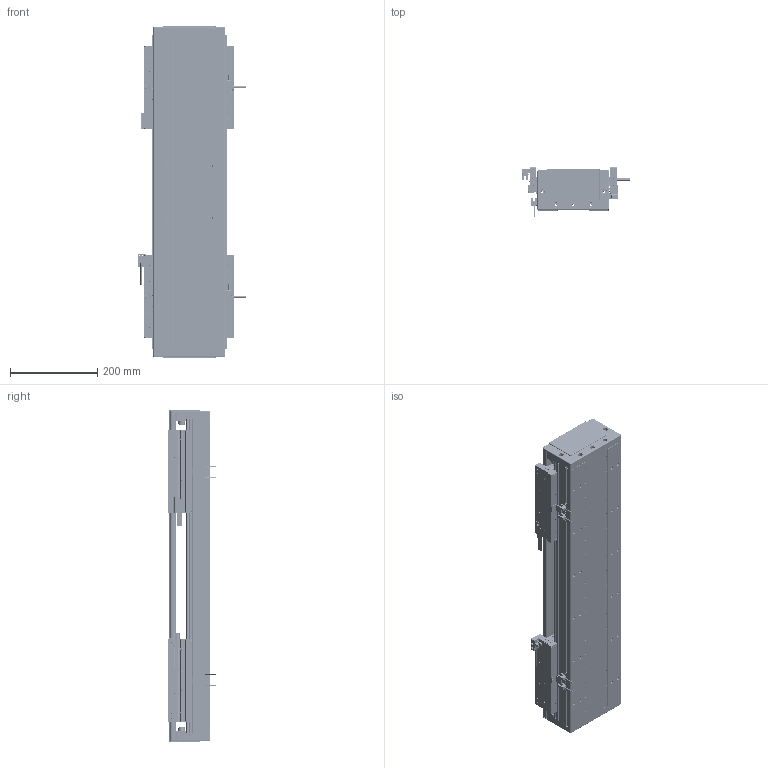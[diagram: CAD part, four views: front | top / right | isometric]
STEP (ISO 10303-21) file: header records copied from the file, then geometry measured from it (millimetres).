
FILE_DESCRIPTION (( 'STEP AP203' ), '1' );
FILE_NAME ('DA-C165-2-C2-T260-C010-0.2 直线电机.STEP', '2023-05-11T08:15:14', ( '微软用户' ), ( '微软中国' ), 'SwSTEP 2.0', 'SolidWorks 2019', '' );
FILE_SCHEMA (( 'CONFIG_CONTROL_DESIGN' ));
Length unit declared in the file: millimetre
Products named in the file (19): 复件 DA95-HXJ-00 缓冲橡胶^DA-C165-C2-T-C010-0.2-N 直线电机; IU-CU165-L 菁釱絳寢; 复件 66338-1000-006-00 光电感应块^DA-C165-C2-T-C010-0.2-N 直线电机; 复件 DA165-DG-H-N-00 端盖^DA-C165-C2-T-C010-0.2-N 直线电机; 葩璃 PM-T45^DA-C165-C2-T-C010-0.2-N 眻盄萇儂; 复件 DA165-T-002-00 盖板^DA-C165-C2-T-C010-0.2-N 直线电机_0840-002-00; 复件 DMA-010-0.2 读数头^DA-C165-C2-T-C010-0.2-N 直线电机; 珨极趙賑雄怢啣wf-C2; 复件 DKW-HXJ-JY-00 缓冲橡胶^DA-C165-C2-T-C010-0.2-N 直线电机; 葩璃 DA95-GT-T-00^IU-CU165-L 菁釱絳寢_T; 复件 六角薄螺母 M3^DA-C165-C2-T-C010-0.2-N 直线电机_GB_FASTENER_NUT_STNAB M3-C; 复件 CKM02-W075-C1C2-TP-3.0 一体电机-C2^DA-C165-C2-T-C010-0.2-N 直线电机; 葩璃 CKM01-W075-TRL^DA-C165-C2-T-C010-0.2-N 眻盄萇儂; DA-C165-2-C2-T260-C010-0.2 眻盄萇儂; 复件 XD-U-02L 磁栅尺^DA-C165-C2-T-C010-0.2-N 直线电机_T; 复件 DA126-GYP-ZJ-00 中间光电感应片^DA-C165-C2-T-C010-0.2-N 直线电机; IU-CU165-L-00 菁釱_L720; 葩璃 PM-Y45^DA-C165-C2-T-C010-0.2-N 眻盄萇儂; 复件 DA165-GYP-00 光电感应片^DA-C165-C2-T-C010-0.2-N 直线电机
Assembly tree (38 placements, depth 3):
  DA-C165-2-C2-T260-C010-0.2 眻盄萇儂
    IU-CU165-L 菁釱絳寢
      IU-CU165-L-00 菁釱_L720
      葩璃 DA95-GT-T-00^IU-CU165-L 菁釱絳寢_T  x4
    复件 DA165-DG-H-N-00 端盖^DA-C165-C2-T-C010-0.2-N 直线电机  x2
    复件 DA95-HXJ-00 缓冲橡胶^DA-C165-C2-T-C010-0.2-N 直线电机  x4
    复件 DA165-T-002-00 盖板^DA-C165-C2-T-C010-0.2-N 直线电机_0840-002-00
    复件 XD-U-02L 磁栅尺^DA-C165-C2-T-C010-0.2-N 直线电机_T
    葩璃 PM-T45^DA-C165-C2-T-C010-0.2-N 眻盄萇儂  x4
    葩璃 CKM01-W075-TRL^DA-C165-C2-T-C010-0.2-N 眻盄萇儂
    复件 CKM02-W075-C1C2-TP-3.0 一体电机-C2^DA-C165-C2-T-C010-0.2-N 直线电机  x2
    复件 DMA-010-0.2 读数头^DA-C165-C2-T-C010-0.2-N 直线电机  x2
    复件 DA165-GYP-00 光电感应片^DA-C165-C2-T-C010-0.2-N 直线电机  x2
    复件 66338-1000-006-00 光电感应块^DA-C165-C2-T-C010-0.2-N 直线电机
    葩璃 PM-Y45^DA-C165-C2-T-C010-0.2-N 眻盄萇儂
    复件 DA126-GYP-ZJ-00 中间光电感应片^DA-C165-C2-T-C010-0.2-N 直线电机
    复件 DKW-HXJ-JY-00 缓冲橡胶^DA-C165-C2-T-C010-0.2-N 直线电机  x2
    复件 六角薄螺母 M3^DA-C165-C2-T-C010-0.2-N 直线电机_GB_FASTENER_NUT_STNAB M3-C  x6
    珨极趙賑雄怢啣wf-C2  x2
Bounding box: 247.2 x 111.45 x 760 mm (x, y, z)
Volume: 7732139.4 mm3; surface area: 1913035.1 mm2
Topology: 115 solids, 115 shells, 4688 faces, 12301 edges, 7618 vertices
Faces by surface type: cylinder 2158, plane 1754, cone 680, torus 88, sphere 8
Entity records: 89360 total; most frequent: CARTESIAN_POINT 19322, DIRECTION 14421, ORIENTED_EDGE 13848, EDGE_CURVE 6924, AXIS2_PLACEMENT_3D 5344, VERTEX_POINT 4455, VECTOR 3733, LINE 3733
